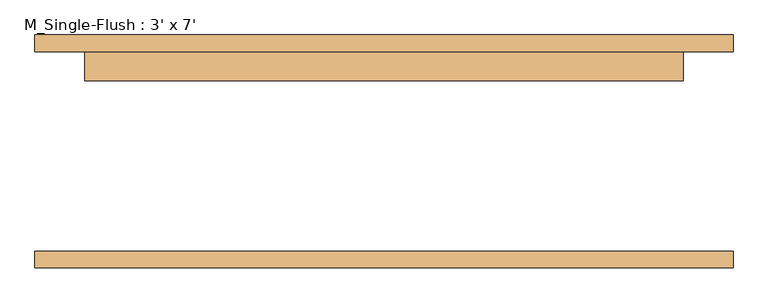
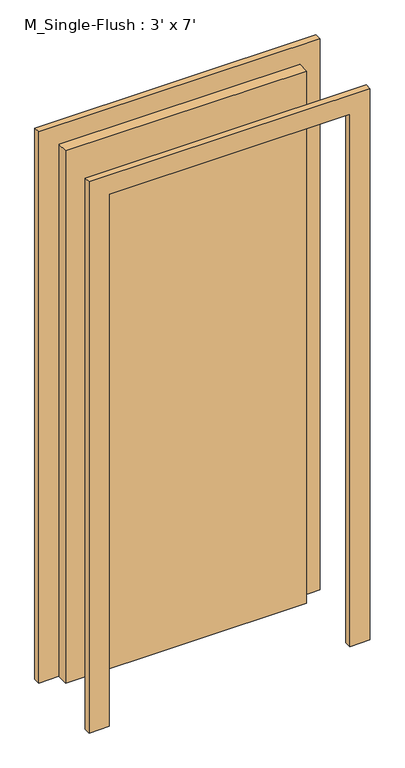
"""IFC4 building model written with IfcOpenShell, lengths in millimetres: door geometry, M_Single-Flush : 3' x 7'."""

from ifc_helpers import new_model, si_unit, frame, origin, origin_with_axes, place, context, project, spatial, polyline, outline, extrude, source, transform, mapped, element, save


def m_single_flush_3_x_7_90ee66ff(model_context):
    return source(origin(), model_context, "Body", "SweptSolid", [
        extrude(outline(polyline([(2209.8, -533.4), (0.0, -533.4), (0.0, -457.2), (2133.6, -457.2), (2133.6, 457.2), (0.0, 457.2), (0.0, 533.4), (2209.8, 533.4), (2209.8, -533.4)])), frame((0.0, 152.4, 0.0), z_axis=(0.0, 1.0, 0.0), x_axis=(0.0, 0.0, 1.0)), (0.0, 0.0, 1.0), 25.4),
        extrude(outline(polyline([(2209.8, 533.4), (2209.8, -533.4), (0.0, -533.4), (0.0, -457.2), (2133.6, -457.2), (2133.6, 457.2), (0.0, 457.2), (0.0, 533.4), (2209.8, 533.4)])), frame((0.0, -177.8, 0.0), z_axis=(0.0, 1.0, 0.0), x_axis=(0.0, 0.0, 1.0)), (0.0, 0.0, 1.0), 25.4),
        extrude(outline(polyline([(457.2, 107.95), (-457.2, 107.95), (-457.2, 152.4), (457.2, 152.4), (457.2, 107.95)])), origin_with_axes(), (0.0, 0.0, 1.0), 2133.6),
    ])


if __name__ == "__main__":
    model = new_model("IFC4")
    model_context = context("Model", 3, world=origin())
    ifc_project = project(units=[si_unit("LENGTHUNIT", "METRE", prefix="MILLI")], contexts=[model_context])
    site = spatial("IfcSite", under=ifc_project)
    building = spatial("IfcBuilding", under=site)
    placement = place(None, origin())
    m_single_flush_3_x_7_shape = m_single_flush_3_x_7_90ee66ff(model_context)
    element("IfcDoor", 1, ObjectType="M_Single-Flush : 3' x 7'", at=placement, inside=building, context=model_context, shape_type="MappedRepresentation", body=[
        mapped(m_single_flush_3_x_7_shape, transform((0.0, 0.0, 0.0), x_axis=(1.0, 0.0, 0.0), y_axis=(0.0, 1.0, 0.0), z_axis=(0.0, 0.0, 1.0))),
    ])
    save(model, "model.ifc")
